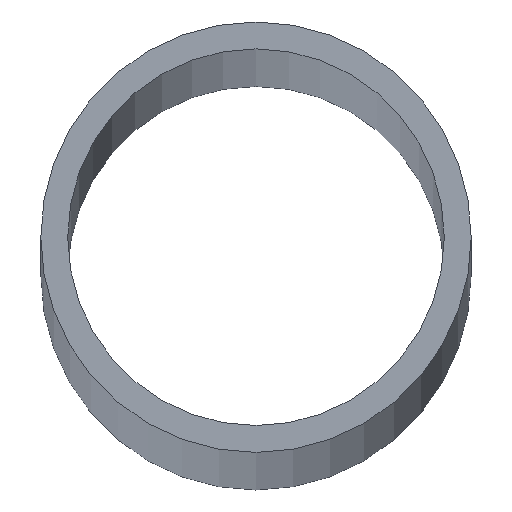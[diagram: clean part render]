
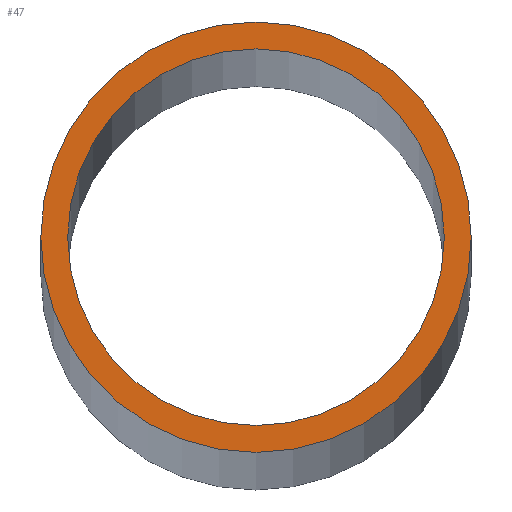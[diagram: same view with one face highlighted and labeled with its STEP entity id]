
A CAD part, top view. The second image highlights one B-rep face of the part: STEP entity #47.
In plain terms, the highlighted planar face has unit normal (0, 0, 1).
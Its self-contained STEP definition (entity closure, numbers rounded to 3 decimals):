
#10 = EDGE_LOOP ( 'NONE', ( #203, #60 ) ) ;
#17 = ORIENTED_EDGE ( 'NONE', *, *, #85, .T. ) ;
#27 = CIRCLE ( 'NONE', #88, 17.5 ) ;
#30 = DIRECTION ( 'NONE',  ( 1., 0., 0. ) ) ;
#31 = EDGE_CURVE ( 'NONE', #129, #38, #195, .T. ) ;
#36 = CARTESIAN_POINT ( 'NONE',  ( 0., 0., 2000. ) ) ;
#38 = VERTEX_POINT ( 'NONE', #169 ) ;
#47 = ADVANCED_FACE ( 'NONE', ( #149, #150 ), #63, .T. ) ;
#49 = VERTEX_POINT ( 'NONE', #99 ) ;
#50 = AXIS2_PLACEMENT_3D ( 'NONE', #83, #103, #30 ) ;
#52 = CARTESIAN_POINT ( 'NONE',  ( -17.5, 0., 2000. ) ) ;
#53 = CARTESIAN_POINT ( 'NONE',  ( 0., 0., 2000. ) ) ;
#60 = ORIENTED_EDGE ( 'NONE', *, *, #140, .F. ) ;
#63 = PLANE ( 'NONE',  #50 ) ;
#79 = EDGE_LOOP ( 'NONE', ( #17, #104 ) ) ;
#83 = CARTESIAN_POINT ( 'NONE',  ( 0., 0., 2000. ) ) ;
#85 = EDGE_CURVE ( 'NONE', #121, #49, #202, .T. ) ;
#88 = AXIS2_PLACEMENT_3D ( 'NONE', #36, #194, #189 ) ;
#99 = CARTESIAN_POINT ( 'NONE',  ( 20., 0., 2000. ) ) ;
#100 = AXIS2_PLACEMENT_3D ( 'NONE', #53, #154, #192 ) ;
#103 = DIRECTION ( 'NONE',  ( 0., 0., 1. ) ) ;
#104 = ORIENTED_EDGE ( 'NONE', *, *, #143, .T. ) ;
#108 = DIRECTION ( 'NONE',  ( 1., 0., 0. ) ) ;
#121 = VERTEX_POINT ( 'NONE', #176 ) ;
#124 = CARTESIAN_POINT ( 'NONE',  ( 0., 0., 2000. ) ) ;
#129 = VERTEX_POINT ( 'NONE', #52 ) ;
#140 = EDGE_CURVE ( 'NONE', #38, #129, #27, .T. ) ;
#141 = DIRECTION ( 'NONE',  ( 0., 0., 1. ) ) ;
#143 = EDGE_CURVE ( 'NONE', #49, #121, #145, .T. ) ;
#145 = CIRCLE ( 'NONE', #100, 20. ) ;
#148 = DIRECTION ( 'NONE',  ( 0., 0., 1. ) ) ;
#149 = FACE_OUTER_BOUND ( 'NONE', #79, .T. ) ;
#150 = FACE_BOUND ( 'NONE', #10, .T. ) ;
#154 = DIRECTION ( 'NONE',  ( 0., 0., 1. ) ) ;
#164 = AXIS2_PLACEMENT_3D ( 'NONE', #124, #141, #108 ) ;
#169 = CARTESIAN_POINT ( 'NONE',  ( 17.5, 0., 2000. ) ) ;
#170 = DIRECTION ( 'NONE',  ( 1., 0., 0. ) ) ;
#176 = CARTESIAN_POINT ( 'NONE',  ( -20., 0., 2000. ) ) ;
#189 = DIRECTION ( 'NONE',  ( 1., 0., 0. ) ) ;
#192 = DIRECTION ( 'NONE',  ( 1., 0., 0. ) ) ;
#194 = DIRECTION ( 'NONE',  ( 0., 0., 1. ) ) ;
#195 = CIRCLE ( 'NONE', #210, 17.5 ) ;
#197 = CARTESIAN_POINT ( 'NONE',  ( 0., 0., 2000. ) ) ;
#202 = CIRCLE ( 'NONE', #164, 20. ) ;
#203 = ORIENTED_EDGE ( 'NONE', *, *, #31, .F. ) ;
#210 = AXIS2_PLACEMENT_3D ( 'NONE', #197, #148, #170 ) ;
